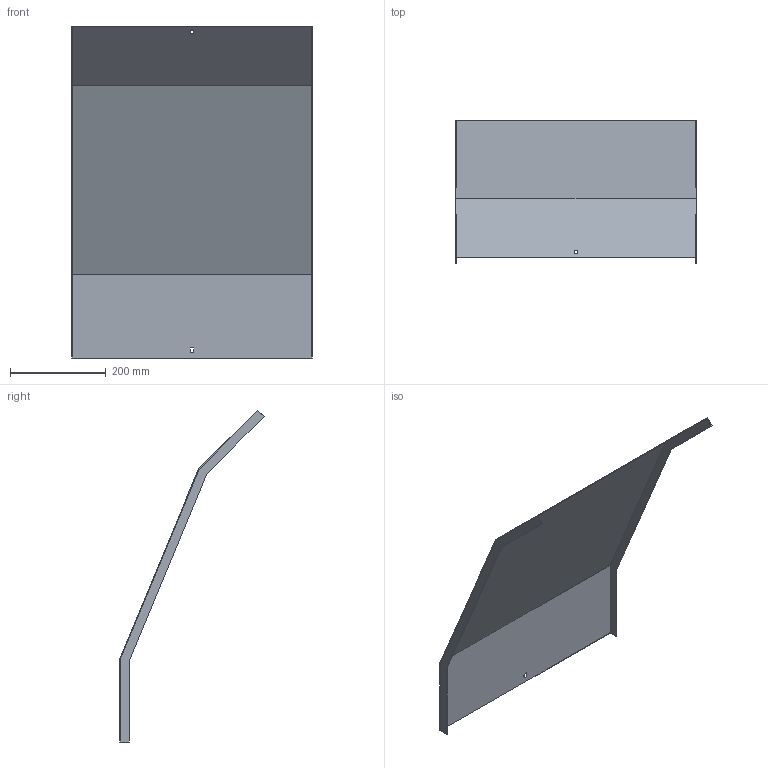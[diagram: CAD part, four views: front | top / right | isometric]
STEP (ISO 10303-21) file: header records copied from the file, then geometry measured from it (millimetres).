
FILE_DESCRIPTION (( 'STEP AP214' ), '1' );
FILE_NAME ('34N5D500.step', '2025-02-21T10:33:16', ( '' ), ( '' ), 'SwSTEP 2.0', 'SolidWorks 2023', '' );
FILE_SCHEMA (( 'AUTOMOTIVE_DESIGN' ));
Length unit declared in the file: millimetre
Products named in the file (1): 34N5D500
Bounding box: 503 x 301.7 x 694.23 mm (x, y, z)
Volume: 629009.1 mm3; surface area: 842679.6 mm2
Topology: 1 solids, 1 shells, 26 faces, 72 edges, 48 vertices
Faces by surface type: plane 26
Entity records: 847 total; most frequent: CARTESIAN_POINT 147, ORIENTED_EDGE 144, DIRECTION 126, EDGE_CURVE 72, VECTOR 72, LINE 72, VERTEX_POINT 48, EDGE_LOOP 30
